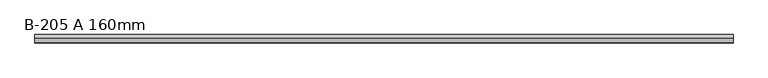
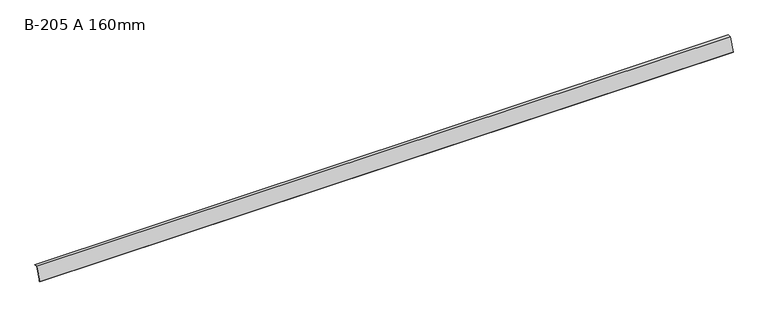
"""IFC4 building model written with IfcOpenShell, lengths in millimetres: proxy geometry, GROVIK_Flashing_Eaves : B-205 A 160mm."""

from ifc_helpers import new_model, si_unit, frame, origin, place, context, project, spatial, polyline, outline, extrude, source, transform, mapped, element, save


def b_205_a_160mm_6113b0de(model_context):
    return source(origin(), model_context, "Body", "SweptSolid", [
        extrude(outline(polyline([(-0.6918582, 0.9880759), (-57.9129574, -148.077984), (-48.2100002, -145.6587651), (-47.9680783, -146.6290608), (-59.5349563, -149.5130074), (-1.3837164, 1.9761518), (33.9599168, 2.5930772), (33.9773692, 1.5932295), (-0.6918582, 0.9880759)])), frame((0.0, 0.0, 0.0), z_axis=(1.0, 0.0, 0.0), x_axis=(0.0, 1.0, 0.0)), (0.0, 0.0, 1.0), 7900.0),
    ])


if __name__ == "__main__":
    model = new_model("IFC4")
    model_context = context("Model", 3, world=origin())
    ifc_project = project(units=[si_unit("LENGTHUNIT", "METRE", prefix="MILLI")], contexts=[model_context])
    site = spatial("IfcSite", under=ifc_project)
    building = spatial("IfcBuilding", under=site)
    placement = place(None, origin())
    b_205_a_160mm_shape = b_205_a_160mm_6113b0de(model_context)
    element("IfcBuildingElementProxy", 1, Name="GROVIK_Flashing_Eaves : B-205 A 160mm", ObjectType="GROVIK_Flashing_Eaves : B-205 A 160mm", at=placement, inside=building, context=model_context, shape_type="MappedRepresentation", body=[
        mapped(b_205_a_160mm_shape, transform((0.0, 0.0, 0.0), x_axis=(1.0, 0.0, 0.0), y_axis=(0.0, 1.0, 0.0), z_axis=(0.0, 0.0, 1.0))),
    ])
    save(model, "model.ifc")
